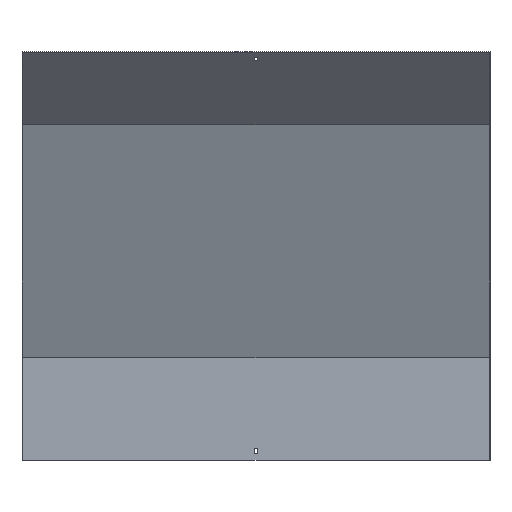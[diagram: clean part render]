
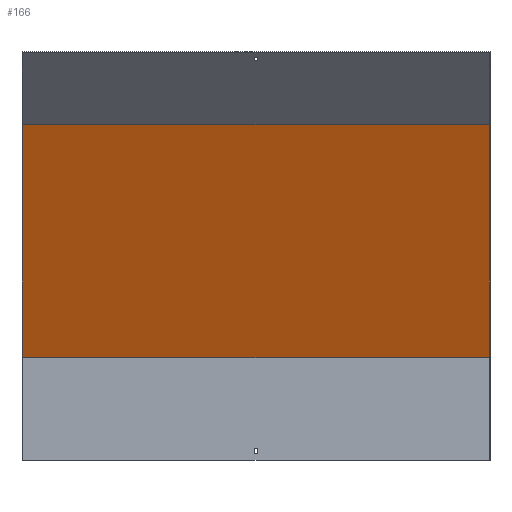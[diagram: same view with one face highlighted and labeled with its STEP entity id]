
A CAD part, front view. The second image highlights one B-rep face of the part: STEP entity #166.
In plain terms, the highlighted planar face has unit normal (0, -0.924, -0.383).
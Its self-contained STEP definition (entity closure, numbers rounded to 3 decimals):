
#10 = LINE ( 'NONE', #535, #255 ) ;
#27 = PLANE ( 'NONE',  #769 ) ;
#102 = ORIENTED_EDGE ( 'NONE', *, *, #223, .T. ) ;
#166 = ADVANCED_FACE ( 'NONE', ( #233 ), #27, .T. ) ;
#222 = LINE ( 'NONE', #490, #365 ) ;
#223 = EDGE_CURVE ( 'NONE', #291, #602, #222, .T. ) ;
#233 = FACE_OUTER_BOUND ( 'NONE', #758, .T. ) ;
#236 = DIRECTION ( 'NONE',  ( 0., -0.924, -0.383 ) ) ;
#255 = VECTOR ( 'NONE', #262, 1000. ) ;
#262 = DIRECTION ( 'NONE',  ( 0., -0.383, 0.924 ) ) ;
#265 = VECTOR ( 'NONE', #439, 1000. ) ;
#291 = VERTEX_POINT ( 'NONE', #292 ) ;
#292 = CARTESIAN_POINT ( 'NONE',  ( 400., -147.34, 576.052 ) ) ;
#311 = LINE ( 'NONE', #517, #265 ) ;
#327 = ORIENTED_EDGE ( 'NONE', *, *, #358, .F. ) ;
#358 = EDGE_CURVE ( 'NONE', #818, #499, #311, .T. ) ;
#365 = VECTOR ( 'NONE', #683, 1000. ) ;
#432 = ORIENTED_EDGE ( 'NONE', *, *, #447, .T. ) ;
#439 = DIRECTION ( 'NONE',  ( -1., 0., 0. ) ) ;
#447 = EDGE_CURVE ( 'NONE', #818, #291, #10, .T. ) ;
#452 = LINE ( 'NONE', #764, #528 ) ;
#464 = CARTESIAN_POINT ( 'NONE',  ( -400., 18.5, 175.68 ) ) ;
#490 = CARTESIAN_POINT ( 'NONE',  ( 401.5, -147.34, 576.052 ) ) ;
#499 = VERTEX_POINT ( 'NONE', #464 ) ;
#510 = CARTESIAN_POINT ( 'NONE',  ( -400., -147.34, 576.052 ) ) ;
#516 = DIRECTION ( 'NONE',  ( 0., -0.383, 0.924 ) ) ;
#517 = CARTESIAN_POINT ( 'NONE',  ( 401.5, 18.5, 175.68 ) ) ;
#528 = VECTOR ( 'NONE', #516, 1000. ) ;
#535 = CARTESIAN_POINT ( 'NONE',  ( 400., 77.903, 32.268 ) ) ;
#574 = EDGE_CURVE ( 'NONE', #499, #602, #452, .T. ) ;
#602 = VERTEX_POINT ( 'NONE', #510 ) ;
#674 = CARTESIAN_POINT ( 'NONE',  ( 400., 18.5, 175.68 ) ) ;
#683 = DIRECTION ( 'NONE',  ( -1., 0., 0. ) ) ;
#747 = CARTESIAN_POINT ( 'NONE',  ( 401.5, 17.092, 179.08 ) ) ;
#752 = ORIENTED_EDGE ( 'NONE', *, *, #574, .F. ) ;
#758 = EDGE_LOOP ( 'NONE', ( #752, #327, #432, #102 ) ) ;
#764 = CARTESIAN_POINT ( 'NONE',  ( -400., 77.903, 32.268 ) ) ;
#769 = AXIS2_PLACEMENT_3D ( 'NONE', #747, #236, #822 ) ;
#818 = VERTEX_POINT ( 'NONE', #674 ) ;
#822 = DIRECTION ( 'NONE',  ( 0., 0.383, -0.924 ) ) ;
